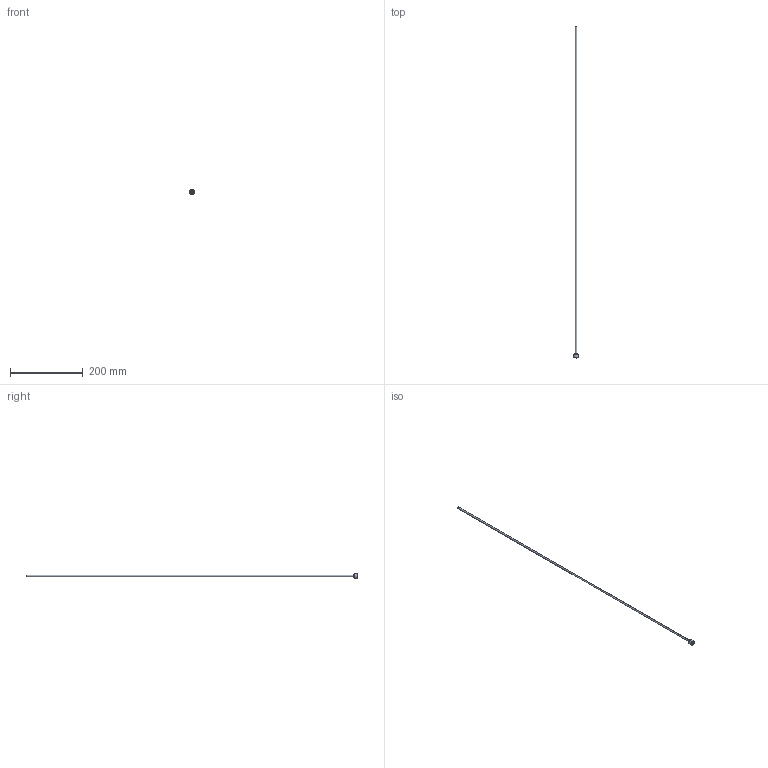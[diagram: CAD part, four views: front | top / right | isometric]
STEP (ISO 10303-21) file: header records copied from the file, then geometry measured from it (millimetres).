
FILE_DESCRIPTION(/* description */ (''),/* implementation_level */ '2;1');
FILE_NAME(/* name */ 'C:/Users/drich/Desktop/PT14-187-36 v1.step',/* time_stamp */ '2019-12-27T15:07:26-06:00',/* author */ (''),/* organization */ (''),/* preprocessor_version */ 'ST-DEVELOPER v18',/* originating_system */ 'Autodesk Translation Framework v8.12.0.6',/* authorisation */ '');
FILE_SCHEMA (('AUTOMOTIVE_DESIGN { 1 0 10303 214 3 1 1 }'));
Length unit declared in the file: inch
Products named in the file (1): PT14-187-36
Bounding box: 13.03 x 914.4 x 13.03 mm (x, y, z)
Volume: 4217.7 mm3; surface area: 26319.9 mm2
Topology: 1 solids, 1 shells, 19 faces, 48 edges, 34 vertices
Faces by surface type: plane 11, cylinder 4, torus 2, cone 2
Full cylindrical faces by diameter (mm): 4.242 x1, 4.724 x1, 8.712 x1, 13.032 x1
Entity records: 633 total; most frequent: DIRECTION 112, CARTESIAN_POINT 102, ORIENTED_EDGE 96, EDGE_CURVE 48, AXIS2_PLACEMENT_3D 44, VERTEX_POINT 34, CIRCLE 24, EDGE_LOOP 24
